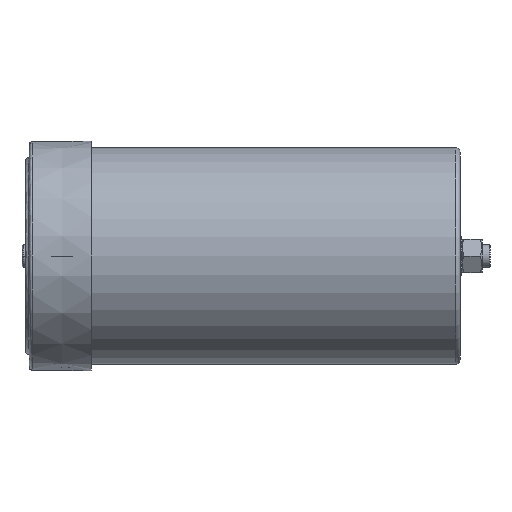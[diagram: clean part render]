
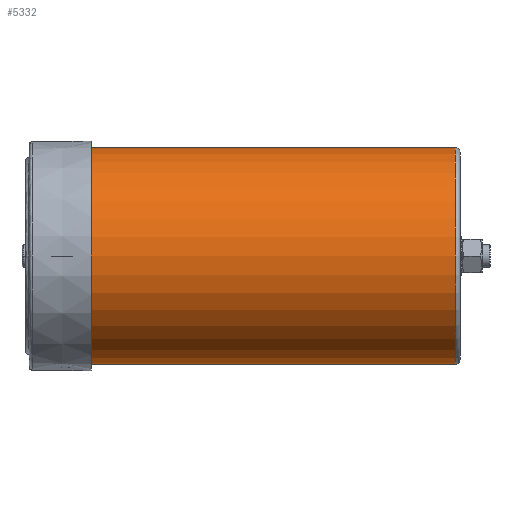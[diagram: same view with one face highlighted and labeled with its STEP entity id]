
A CAD part, left-side view. The second image highlights one B-rep face of the part: STEP entity #5332.
In plain terms, the highlighted cylindrical face has radius 58 mm (diameter 116 mm), a partial arc.
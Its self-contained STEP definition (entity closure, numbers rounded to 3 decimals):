
#1051 = EDGE_CURVE ( 'NONE', #2688, #13542, #8030, .T. ) ;
#1097 = CARTESIAN_POINT ( 'NONE',  ( 0., -224.9, 0. ) ) ;
#1257 = VECTOR ( 'NONE', #15673, 1000. ) ;
#1890 = EDGE_CURVE ( 'NONE', #16876, #13542, #9761, .T. ) ;
#2688 = VERTEX_POINT ( 'NONE', #16919 ) ;
#3294 = DIRECTION ( 'NONE',  ( 0., 0., -1. ) ) ;
#3398 = DIRECTION ( 'NONE',  ( 0., -1., 0. ) ) ;
#4093 = VECTOR ( 'NONE', #9822, 1000. ) ;
#4161 = CIRCLE ( 'NONE', #8068, 58. ) ;
#4606 = DIRECTION ( 'NONE',  ( 0., 1., 0. ) ) ;
#5332 = ADVANCED_FACE ( 'NONE', ( #8169 ), #20061, .T. ) ;
#5540 = EDGE_CURVE ( 'NONE', #14363, #16876, #13870, .T. ) ;
#6102 = AXIS2_PLACEMENT_3D ( 'NONE', #1097, #14083, #10267 ) ;
#7330 = CARTESIAN_POINT ( 'NONE',  ( 0., -227.4, -58. ) ) ;
#8030 = LINE ( 'NONE', #11492, #4093 ) ;
#8068 = AXIS2_PLACEMENT_3D ( 'NONE', #17324, #4606, #3294 ) ;
#8169 = FACE_OUTER_BOUND ( 'NONE', #20377, .T. ) ;
#9761 = CIRCLE ( 'NONE', #6102, 58. ) ;
#9822 = DIRECTION ( 'NONE',  ( 0., -1., 0. ) ) ;
#9926 = CARTESIAN_POINT ( 'NONE',  ( 0., -227.4, 0. ) ) ;
#10092 = AXIS2_PLACEMENT_3D ( 'NONE', #9926, #3398, #11167 ) ;
#10267 = DIRECTION ( 'NONE',  ( 0., 0., -1. ) ) ;
#11167 = DIRECTION ( 'NONE',  ( 0., 0., -1. ) ) ;
#11492 = CARTESIAN_POINT ( 'NONE',  ( 0., -227.4, 58. ) ) ;
#12045 = ORIENTED_EDGE ( 'NONE', *, *, #5540, .T. ) ;
#12467 = ORIENTED_EDGE ( 'NONE', *, *, #1051, .F. ) ;
#13338 = CARTESIAN_POINT ( 'NONE',  ( 0., -224.9, 58. ) ) ;
#13542 = VERTEX_POINT ( 'NONE', #13338 ) ;
#13870 = LINE ( 'NONE', #7330, #1257 ) ;
#14083 = DIRECTION ( 'NONE',  ( 0., 1., 0. ) ) ;
#14363 = VERTEX_POINT ( 'NONE', #14611 ) ;
#14611 = CARTESIAN_POINT ( 'NONE',  ( 0., 0., -58. ) ) ;
#15257 = ORIENTED_EDGE ( 'NONE', *, *, #15580, .F. ) ;
#15580 = EDGE_CURVE ( 'NONE', #14363, #2688, #4161, .T. ) ;
#15673 = DIRECTION ( 'NONE',  ( 0., -1., 0. ) ) ;
#16124 = ORIENTED_EDGE ( 'NONE', *, *, #1890, .T. ) ;
#16876 = VERTEX_POINT ( 'NONE', #17543 ) ;
#16919 = CARTESIAN_POINT ( 'NONE',  ( 0., 0., 58. ) ) ;
#17324 = CARTESIAN_POINT ( 'NONE',  ( 0., 0., 0. ) ) ;
#17543 = CARTESIAN_POINT ( 'NONE',  ( 0., -224.9, -58. ) ) ;
#20061 = CYLINDRICAL_SURFACE ( 'NONE', #10092, 58. ) ;
#20377 = EDGE_LOOP ( 'NONE', ( #12467, #15257, #12045, #16124 ) ) ;
